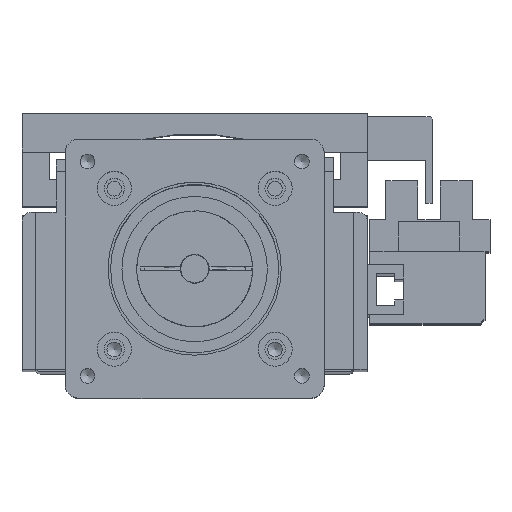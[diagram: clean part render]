
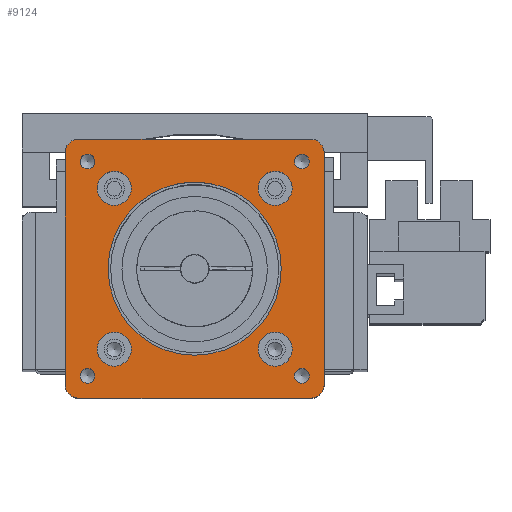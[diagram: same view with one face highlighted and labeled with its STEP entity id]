
A CAD part, top view. The second image highlights one B-rep face of the part: STEP entity #9124.
In plain terms, the highlighted planar face has unit normal (0, 0, 1).
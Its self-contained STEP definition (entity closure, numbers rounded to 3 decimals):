
#8764=CARTESIAN_POINT('',(53.691,4.93,0.0));
#8765=VERTEX_POINT('',#8764);
#8766=CARTESIAN_POINT('',(52.07,4.93,0.0));
#8767=DIRECTION('',(0.0,0.0,-1.0));
#8768=DIRECTION('',(1.0,0.0,0.0));
#8769=AXIS2_PLACEMENT_3D('',#8766,#8767,#8768);
#8770=CIRCLE('',#8769,1.621);
#8771=EDGE_CURVE('',#8765,#8765,#8770,.T.);
#8801=CARTESIAN_POINT('',(6.551,52.07,0.0));
#8802=VERTEX_POINT('',#8801);
#8803=CARTESIAN_POINT('',(4.93,52.07,0.0));
#8804=DIRECTION('',(0.0,0.0,-1.0));
#8805=DIRECTION('',(1.0,0.0,0.0));
#8806=AXIS2_PLACEMENT_3D('',#8803,#8804,#8805);
#8807=CIRCLE('',#8806,1.621);
#8808=EDGE_CURVE('',#8802,#8802,#8807,.T.);
#8838=CARTESIAN_POINT('',(53.691,52.07,0.0));
#8839=VERTEX_POINT('',#8838);
#8840=CARTESIAN_POINT('',(52.07,52.07,0.0));
#8841=DIRECTION('',(0.0,0.0,-1.0));
#8842=DIRECTION('',(1.0,0.0,0.0));
#8843=AXIS2_PLACEMENT_3D('',#8840,#8841,#8842);
#8844=CIRCLE('',#8843,1.621);
#8845=EDGE_CURVE('',#8839,#8839,#8844,.T.);
#8875=CARTESIAN_POINT('',(6.551,4.93,0.0));
#8876=VERTEX_POINT('',#8875);
#8877=CARTESIAN_POINT('',(4.93,4.93,0.0));
#8878=DIRECTION('',(0.0,0.0,-1.0));
#8879=DIRECTION('',(1.0,0.0,0.0));
#8880=AXIS2_PLACEMENT_3D('',#8877,#8878,#8879);
#8881=CIRCLE('',#8880,1.621);
#8882=EDGE_CURVE('',#8876,#8876,#8881,.T.);
#8906=CARTESIAN_POINT('',(0.0,54.0,0.0));
#8907=VERTEX_POINT('',#8906);
#8914=CARTESIAN_POINT('',(3.,57.0,0.0));
#8915=VERTEX_POINT('',#8914);
#8916=CARTESIAN_POINT('',(3.,54.0,0.0));
#8917=DIRECTION('',(0.0,0.0,-1.));
#8918=DIRECTION('',(-0.707,0.707,0.0));
#8919=AXIS2_PLACEMENT_3D('',#8916,#8917,#8918);
#8920=CIRCLE('',#8919,3.);
#8921=EDGE_CURVE('',#8907,#8915,#8920,.T.);
#8938=CARTESIAN_POINT('',(54.,57.,0.0));
#8939=VERTEX_POINT('',#8938);
#8940=CARTESIAN_POINT('',(54.,57.,0.0));
#8941=DIRECTION('',(-1.0,0.0,0.0));
#8942=VECTOR('',#8941,51.);
#8943=LINE('',#8940,#8942);
#8944=EDGE_CURVE('',#8939,#8915,#8943,.T.);
#8999=CARTESIAN_POINT('',(28.5,28.5,0.0));
#9000=DIRECTION('',(0.0,0.0,1.0));
#9001=DIRECTION('',(1.0,0.0,0.0));
#9002=AXIS2_PLACEMENT_3D('',#8999,#9000,#9001);
#9003=PLANE('',#9002);
#9004=ORIENTED_EDGE('',*,*,#8921,.F.);
#9005=CARTESIAN_POINT('',(0.0,3.,0.0));
#9006=VERTEX_POINT('',#9005);
#9007=CARTESIAN_POINT('',(0.0,54.0,0.0));
#9008=DIRECTION('',(0.0,-1.0,0.0));
#9009=VECTOR('',#9008,51.0);
#9010=LINE('',#9007,#9009);
#9011=EDGE_CURVE('',#8907,#9006,#9010,.T.);
#9012=ORIENTED_EDGE('',*,*,#9011,.T.);
#9013=CARTESIAN_POINT('',(3.,0.0,0.0));
#9014=VERTEX_POINT('',#9013);
#9015=CARTESIAN_POINT('',(3.,3.,0.0));
#9016=DIRECTION('',(0.0,0.0,-1.));
#9017=DIRECTION('',(-0.707,-0.707,0.0));
#9018=AXIS2_PLACEMENT_3D('',#9015,#9016,#9017);
#9019=CIRCLE('',#9018,3.);
#9020=EDGE_CURVE('',#9014,#9006,#9019,.T.);
#9021=ORIENTED_EDGE('',*,*,#9020,.F.);
#9022=CARTESIAN_POINT('',(54.0,0.0,0.0));
#9023=VERTEX_POINT('',#9022);
#9024=CARTESIAN_POINT('',(3.,0.0,0.0));
#9025=DIRECTION('',(1.0,0.0,0.0));
#9026=VECTOR('',#9025,51.0);
#9027=LINE('',#9024,#9026);
#9028=EDGE_CURVE('',#9014,#9023,#9027,.T.);
#9029=ORIENTED_EDGE('',*,*,#9028,.T.);
#9030=CARTESIAN_POINT('',(57.0,3.,0.0));
#9031=VERTEX_POINT('',#9030);
#9032=CARTESIAN_POINT('',(54.0,3.,0.0));
#9033=DIRECTION('',(0.0,0.0,-1.));
#9034=DIRECTION('',(0.707,-0.707,0.0));
#9035=AXIS2_PLACEMENT_3D('',#9032,#9033,#9034);
#9036=CIRCLE('',#9035,3.);
#9037=EDGE_CURVE('',#9031,#9023,#9036,.T.);
#9038=ORIENTED_EDGE('',*,*,#9037,.F.);
#9039=CARTESIAN_POINT('',(57.,54.,0.0));
#9040=VERTEX_POINT('',#9039);
#9041=CARTESIAN_POINT('',(57.0,3.,0.0));
#9042=DIRECTION('',(0.0,1.0,0.0));
#9043=VECTOR('',#9042,51.);
#9044=LINE('',#9041,#9043);
#9045=EDGE_CURVE('',#9031,#9040,#9044,.T.);
#9046=ORIENTED_EDGE('',*,*,#9045,.T.);
#9047=CARTESIAN_POINT('',(54.,54.,0.0));
#9048=DIRECTION('',(0.0,0.0,-1.));
#9049=DIRECTION('',(0.707,0.707,0.0));
#9050=AXIS2_PLACEMENT_3D('',#9047,#9048,#9049);
#9051=CIRCLE('',#9050,3.);
#9052=EDGE_CURVE('',#8939,#9040,#9051,.T.);
#9053=ORIENTED_EDGE('',*,*,#9052,.F.);
#9054=ORIENTED_EDGE('',*,*,#8944,.T.);
#9055=EDGE_LOOP('',(#9004,#9012,#9021,#9029,#9038,#9046,#9053,#9054));
#9056=FACE_OUTER_BOUND('',#9055,.T.);
#9057=ORIENTED_EDGE('',*,*,#8771,.T.);
#9058=EDGE_LOOP('',(#9057));
#9059=FACE_BOUND('',#9058,.T.);
#9060=ORIENTED_EDGE('',*,*,#8808,.T.);
#9061=EDGE_LOOP('',(#9060));
#9062=FACE_BOUND('',#9061,.T.);
#9063=ORIENTED_EDGE('',*,*,#8845,.T.);
#9064=EDGE_LOOP('',(#9063));
#9065=FACE_BOUND('',#9064,.T.);
#9066=ORIENTED_EDGE('',*,*,#8882,.T.);
#9067=EDGE_LOOP('',(#9066));
#9068=FACE_BOUND('',#9067,.T.);
#9069=CARTESIAN_POINT('',(49.95,10.8,0.0));
#9070=VERTEX_POINT('',#9069);
#9071=CARTESIAN_POINT('',(46.2,10.8,0.0));
#9072=DIRECTION('',(0.0,0.0,-1.0));
#9073=DIRECTION('',(1.0,0.0,0.0));
#9074=AXIS2_PLACEMENT_3D('',#9071,#9072,#9073);
#9075=CIRCLE('',#9074,3.75);
#9076=EDGE_CURVE('',#9070,#9070,#9075,.T.);
#9077=ORIENTED_EDGE('',*,*,#9076,.T.);
#9078=EDGE_LOOP('',(#9077));
#9079=FACE_BOUND('',#9078,.T.);
#9080=CARTESIAN_POINT('',(14.55,46.2,0.0));
#9081=VERTEX_POINT('',#9080);
#9082=CARTESIAN_POINT('',(10.8,46.2,0.0));
#9083=DIRECTION('',(0.0,0.0,-1.0));
#9084=DIRECTION('',(1.0,0.0,0.0));
#9085=AXIS2_PLACEMENT_3D('',#9082,#9083,#9084);
#9086=CIRCLE('',#9085,3.75);
#9087=EDGE_CURVE('',#9081,#9081,#9086,.T.);
#9088=ORIENTED_EDGE('',*,*,#9087,.T.);
#9089=EDGE_LOOP('',(#9088));
#9090=FACE_BOUND('',#9089,.T.);
#9091=CARTESIAN_POINT('',(14.55,10.8,0.0));
#9092=VERTEX_POINT('',#9091);
#9093=CARTESIAN_POINT('',(10.8,10.8,0.0));
#9094=DIRECTION('',(0.0,0.0,-1.0));
#9095=DIRECTION('',(1.0,0.0,0.0));
#9096=AXIS2_PLACEMENT_3D('',#9093,#9094,#9095);
#9097=CIRCLE('',#9096,3.75);
#9098=EDGE_CURVE('',#9092,#9092,#9097,.T.);
#9099=ORIENTED_EDGE('',*,*,#9098,.T.);
#9100=EDGE_LOOP('',(#9099));
#9101=FACE_BOUND('',#9100,.T.);
#9102=CARTESIAN_POINT('',(49.95,46.2,0.0));
#9103=VERTEX_POINT('',#9102);
#9104=CARTESIAN_POINT('',(46.2,46.2,0.0));
#9105=DIRECTION('',(0.0,0.0,-1.0));
#9106=DIRECTION('',(1.0,0.0,0.0));
#9107=AXIS2_PLACEMENT_3D('',#9104,#9105,#9106);
#9108=CIRCLE('',#9107,3.75);
#9109=EDGE_CURVE('',#9103,#9103,#9108,.T.);
#9110=ORIENTED_EDGE('',*,*,#9109,.T.);
#9111=EDGE_LOOP('',(#9110));
#9112=FACE_BOUND('',#9111,.T.);
#9113=CARTESIAN_POINT('',(47.55,28.5,0.0));
#9114=VERTEX_POINT('',#9113);
#9115=CARTESIAN_POINT('',(28.5,28.5,0.0));
#9116=DIRECTION('',(0.0,0.0,-1.0));
#9117=DIRECTION('',(-1.0,0.0,0.0));
#9118=AXIS2_PLACEMENT_3D('',#9115,#9116,#9117);
#9119=CIRCLE('',#9118,19.05);
#9120=EDGE_CURVE('',#9114,#9114,#9119,.T.);
#9121=ORIENTED_EDGE('',*,*,#9120,.T.);
#9122=EDGE_LOOP('',(#9121));
#9123=FACE_BOUND('',#9122,.T.);
#9124=ADVANCED_FACE('',(#9056,#9059,#9062,#9065,#9068,#9079,#9090,#9101,#9112,#9123),#9003,.T.);
